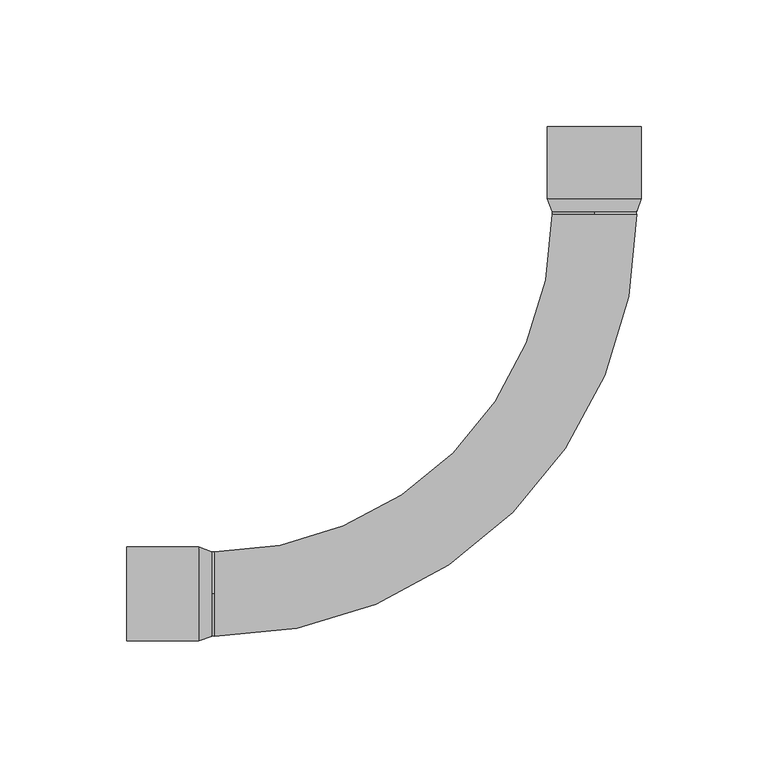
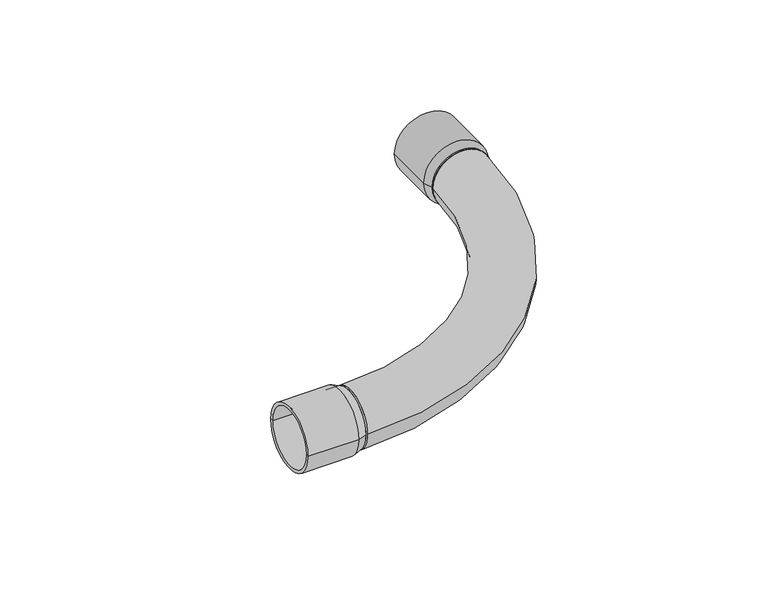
"""IFC4 building model written with IfcOpenShell, lengths in millimetres: cable carrier fitting geometry, AmancoWavin_Unionesdetubería_ConduitCurva : Pesado."""

import ifcopenshell
import ifcopenshell.guid

model = None  # the IFC model being written
_history = None  # IfcOwnerHistory: only IFC2X3 demands one
_inside = {}  # id of a spatial element -> (the spatial element, [elements in it])
_under = {}  # id of a project, library or spatial element -> (it, [spatial elements below it])
_declared = {}  # id of a project -> (the project, [libraries it declares])
_typed = {}  # id of a type object -> (the type object, [elements of that type])
_made_of = {}  # id of a material, layer set ... -> (it, [elements and type objects made of it])


def new_model(schema):
    """Start an empty IFC model of exactly this schema.

    Asked for "IFC4X3", IfcOpenShell would pick the latest addendum, in which some entities
    have other attributes; the version numbers below select the first issue.
    IFC2X3 requires an IfcOwnerHistory on every rooted entity: one is made here for all.
    """
    global model, _history
    if schema == "IFC4X3":
        model = ifcopenshell.file(schema_version=(4, 3, 0, 0))
    else:
        model = ifcopenshell.file(schema=schema)
    _inside.clear()
    _under.clear()
    _declared.clear()
    _typed.clear()
    _made_of.clear()
    _history = None
    if model.schema == "IFC2X3":
        org = make("IfcOrganization", Name="unknown")
        user = make(
            "IfcPersonAndOrganization",
            ThePerson=make("IfcPerson", FamilyName="unknown"),
            TheOrganization=org,
        )
        app = make(
            "IfcApplication",
            ApplicationDeveloper=org,
            Version="unknown",
            ApplicationFullName="unknown",
            ApplicationIdentifier="unknown",
        )
        _history = make(
            "IfcOwnerHistory",
            OwningUser=user,
            OwningApplication=app,
            ChangeAction="ADDED",
            CreationDate=0,
        )
    return model


def make(cls, **values):
    """One entity of the class cls with the attributes given. An attribute that is None is left unset."""
    return model.create_entity(
        cls, **{name: value for name, value in values.items() if value is not None}
    )


def rooted(cls, **values):
    """An entity with a GlobalId (a new one), such as an element, a storey or a relation."""
    return make(cls, GlobalId=ifcopenshell.guid.new(), OwnerHistory=_history, **values)


def si_unit(unit_type, name, prefix=None):
    """IfcSIUnit, for example si_unit("LENGTHUNIT", "METRE", prefix="MILLI")."""
    return make("IfcSIUnit", UnitType=unit_type, Prefix=prefix, Name=name)


def assignment(units):
    """IfcUnitAssignment: the units of a project."""
    return None if units is None else make("IfcUnitAssignment", Units=units)


def point(xyz):
    """IfcCartesianPoint."""
    return None if xyz is None else make("IfcCartesianPoint", Coordinates=xyz)


def direction(xyz):
    """IfcDirection."""
    return None if xyz is None else make("IfcDirection", DirectionRatios=xyz)


def frame(location, z_axis=None, x_axis=None):
    """IfcAxis2Placement3D, a coordinate frame: its origin and axes. An axis left out is left unset."""
    return make(
        "IfcAxis2Placement3D",
        Location=point(location),
        Axis=direction(z_axis),
        RefDirection=direction(x_axis),
    )


def frame_2d(location, x_axis=None):
    """IfcAxis2Placement2D, a coordinate frame in the plane: its origin and x axis."""
    return make(
        "IfcAxis2Placement2D", Location=point(location), RefDirection=direction(x_axis)
    )


def origin():
    """The frame at (0, 0, 0) with its axes left unset."""
    return frame((0.0, 0.0, 0.0))


def origin_2d():
    """The frame at (0, 0) in the plane with its x axis left unset."""
    return frame_2d((0.0, 0.0))


def place(relative_to, where):
    """IfcLocalPlacement: puts the frame where relative to a parent placement (None: the world)."""
    return make(
        "IfcLocalPlacement", PlacementRelTo=relative_to, RelativePlacement=where
    )


def context(
    kind, dimensions, precision=None, world=None, true_north=None, identifier=None
):
    """IfcGeometricRepresentationContext, for example the 3D "Model" context."""
    return make(
        "IfcGeometricRepresentationContext",
        ContextIdentifier=identifier,
        ContextType=kind,
        CoordinateSpaceDimension=dimensions,
        Precision=precision,
        WorldCoordinateSystem=world,
        TrueNorth=true_north,
    )


def project(units=None, contexts=None):
    """IfcProject with its units and contexts."""
    return rooted(
        "IfcProject",
        Name="project",
        RepresentationContexts=contexts,
        UnitsInContext=assignment(units),
    )


def spatial(cls, under=None, at=None, **own):
    """A site, building, storey or space (cls), placed at a placement, below another one or the project."""
    s = rooted(cls, ObjectPlacement=at, **own)
    if under is not None:
        _under.setdefault(under.id(), (under, []))[1].append(s)
    return s


def polyline(points):
    """IfcPolyline through the points."""
    return make("IfcPolyline", Points=[point(p) for p in points])


def circle_curve(where, radius):
    """IfcCircle in the frame where."""
    return make("IfcCircle", Position=where, Radius=radius)


def ellipse_curve(where, semi_axis1, semi_axis2):
    """IfcEllipse in the frame where."""
    return make(
        "IfcEllipse", Position=where, SemiAxis1=semi_axis1, SemiAxis2=semi_axis2
    )


def trimmed(basis, trim1, trim2, sense, master):
    """IfcTrimmedCurve: the piece of a basis curve between two trims."""
    return make(
        "IfcTrimmedCurve",
        BasisCurve=basis,
        Trim1=trim1,
        Trim2=trim2,
        SenseAgreement=sense,
        MasterRepresentation=master,
    )


def segment(curve, same_sense, transition):
    """IfcCompositeCurveSegment."""
    return make(
        "IfcCompositeCurveSegment",
        Transition=transition,
        SameSense=same_sense,
        ParentCurve=curve,
    )


def composite_curve(segments, self_intersect=None):
    """IfcCompositeCurve: segments joined end to end."""
    return make("IfcCompositeCurve", Segments=segments, SelfIntersect=self_intersect)


def outline(outer, holes=None, kind="AREA"):
    """IfcArbitraryClosedProfileDef: a profile drawn as a closed curve; with holes, ...WithVoids."""
    if holes is None:
        return make("IfcArbitraryClosedProfileDef", ProfileType=kind, OuterCurve=outer)
    return make(
        "IfcArbitraryProfileDefWithVoids",
        ProfileType=kind,
        OuterCurve=outer,
        InnerCurves=holes,
    )


def extrude(swept, where, along, depth):
    """IfcExtrudedAreaSolid: the profile swept, set in the frame where, extruded along a direction by depth."""
    return make(
        "IfcExtrudedAreaSolid",
        SweptArea=swept,
        Position=where,
        ExtrudedDirection=direction(along),
        Depth=depth,
    )


def shape(context_of_items, identifier, shape_type, items):
    """IfcShapeRepresentation: the items that make up one representation, for example the "Body"."""
    return make(
        "IfcShapeRepresentation",
        ContextOfItems=context_of_items,
        RepresentationIdentifier=identifier,
        RepresentationType=shape_type,
        Items=items,
    )


def source(mapping_origin, context_of_items, identifier, shape_type, items):
    """IfcRepresentationMap: a shape defined once, which mapped items show again and again."""
    return make(
        "IfcRepresentationMap",
        MappingOrigin=mapping_origin,
        MappedRepresentation=shape(context_of_items, identifier, shape_type, items),
    )


def transform(
    local_origin,
    x_axis=None,
    y_axis=None,
    z_axis=None,
    scale=None,
    scale2=None,
    scale3=None,
    uniform=True,
):
    """IfcCartesianTransformationOperator3D, or its non-uniform kind. x_axis, y_axis, z_axis: its Axis1, 2, 3."""
    if uniform:
        return make(
            "IfcCartesianTransformationOperator3D",
            Axis1=direction(x_axis),
            Axis2=direction(y_axis),
            LocalOrigin=point(local_origin),
            Scale=scale,
            Axis3=direction(z_axis),
        )
    return make(
        "IfcCartesianTransformationOperator3DnonUniform",
        Axis1=direction(x_axis),
        Axis2=direction(y_axis),
        LocalOrigin=point(local_origin),
        Scale=scale,
        Axis3=direction(z_axis),
        Scale2=scale2,
        Scale3=scale3,
    )


def mapped(mapping_source, mapping_target):
    """IfcMappedItem: shows the shape of a source again, moved by a transform."""
    return make(
        "IfcMappedItem", MappingSource=mapping_source, MappingTarget=mapping_target
    )


def made_of(thing, what):
    """Note that an element or type object is made of a material, layer set ...; save() writes the relation."""
    if what is not None:
        _made_of.setdefault(what.id(), (what, []))[1].append(thing)
    return thing


def element(
    cls,
    number,
    at=None,
    inside=None,
    cuts=None,
    type_object=None,
    material=None,
    context=None,
    identifier="Body",
    shape_type=None,
    held_by="IfcProductDefinitionShape",
    body=None,
    shapes=None,
    **own,
):
    """One element of the class cls, such as IfcWall. Its Tag is "e" and its number.

    at: its placement. inside: the storey or other place that contains it. cuts: it is an
    opening in that element (IfcRelVoidsElement). A single representation is given by context,
    identifier, shape_type and body (its items); several are given by shapes. held_by: the class
    of the entity that holds the representations. save() writes the other relations.
    """
    e = rooted(cls, Tag="e%d" % number, ObjectPlacement=at, **own)
    if body is not None:
        shapes = [shape(context, identifier, shape_type, body)]
    if shapes is not None:
        e.Representation = make(held_by, Representations=shapes)
    if inside is not None:
        _inside.setdefault(inside.id(), (inside, []))[1].append(e)
    if cuts is not None:
        rooted(
            "IfcRelVoidsElement", RelatingBuildingElement=cuts, RelatedOpeningElement=e
        )
    if type_object is not None:
        _typed.setdefault(type_object.id(), (type_object, []))[1].append(e)
    return made_of(e, material)


def aggregate(whole, parts):
    """IfcRelAggregates: a whole, such as a stair, and the parts it consists of."""
    return rooted("IfcRelAggregates", RelatingObject=whole, RelatedObjects=parts)


def save(model, path):
    """Write the relations noted so far, then the file.

    IfcRelAggregates (storeys below a building ...), IfcRelContainedInSpatialStructure (elements
    in a storey), IfcRelDefinesByType, IfcRelAssociatesMaterial and IfcRelDeclares: one each for
    every whole, place, type object, material and project.
    """
    for whole, parts in _under.values():
        aggregate(whole, parts)
    for where, things in _inside.values():
        rooted(
            "IfcRelContainedInSpatialStructure",
            RelatedElements=things,
            RelatingStructure=where,
        )
    for kind, things in _typed.values():
        rooted("IfcRelDefinesByType", RelatedObjects=things, RelatingType=kind)
    for what, things in _made_of.values():
        rooted("IfcRelAssociatesMaterial", RelatedObjects=things, RelatingMaterial=what)
    for by, libraries in _declared.values():
        rooted("IfcRelDeclares", RelatingContext=by, RelatedDefinitions=libraries)
    model.write(path)


def plane_surface(at):
    """IfcPlane: the flat surface through the origin of the frame at, square to its z axis."""
    return make("IfcPlane", Position=at)


def cylinder_surface(at, radius):
    """IfcCylindricalSurface: all points at the distance radius from the z axis of the frame at."""
    return make("IfcCylindricalSurface", Position=at, Radius=radius)


def revolved_surface(curve, axis_point, axis_direction):
    """IfcSurfaceOfRevolution: the curve turned about the line through axis_point along axis_direction."""
    return make(
        "IfcSurfaceOfRevolution",
        SweptCurve=make("IfcArbitraryOpenProfileDef", ProfileType="CURVE", Curve=curve),
        AxisPosition=make("IfcAxis1Placement", Location=point(axis_point), Axis=direction(axis_direction)),
    )


def advanced_brep(points, edges, surfaces, faces):
    """IfcAdvancedBrep: a solid bounded by faces that lie on surfaces and meet in shared edges.

    An edge is (start, end): straight between two places in points (the first is 0);
    or (start, end, curve); or (start, end, curve, False) where it runs against its curve.
    A face is (place in surfaces, loops), or (place, loops, False) where it looks against
    its surface's normal. A loop lists edges by number (the first is 1), with a minus sign
    where the edge is run from its end to its start. The first loop is the outer one.
    """
    corners = [point(p) for p in points]
    vertices = [make("IfcVertexPoint", VertexGeometry=c) for c in corners]
    made = []
    for start, end, *more in edges:
        made.append(
            make(
                "IfcEdgeCurve",
                EdgeStart=vertices[start],
                EdgeEnd=vertices[end],
                EdgeGeometry=more[0] if more else make("IfcPolyline", Points=[corners[start], corners[end]]),
                SameSense=more[1] if len(more) > 1 else True,
            )
        )
    hull = []
    for where, loops, *sense in faces:
        bounds = []
        for j, loop in enumerate(loops):
            ring = [make("IfcOrientedEdge", EdgeElement=made[abs(k) - 1], Orientation=k > 0) for k in loop]
            bounds.append(
                make(
                    "IfcFaceOuterBound" if j == 0 else "IfcFaceBound",
                    Bound=make("IfcEdgeLoop", EdgeList=ring),
                    Orientation=True,
                )
            )
        hull.append(make("IfcAdvancedFace", Bounds=bounds, FaceSurface=surfaces[where], SameSense=sense[0] if sense else True))
    return make("IfcAdvancedBrep", Outer=make("IfcClosedShell", CfsFaces=hull))


def cable_carrier_fitting_02a53545(model_context):
    return source(origin(), model_context, "Body", "SolidModel", [
        advanced_brep(
        [(-18.5, 184.5, 0.0), (18.5, 184.5, 0.0), (18.5, 156.0, 0.0), (-18.5, 156.0, 0.0), (-16.7, 184.5, 0.0), (16.7, 184.5, 0.0), (-16.7, 151.0, 0.0), (16.7, 151.0, 0.0)],
        [
            (0, 1, circle_curve(frame((0.0, 184.5, 0.0), z_axis=(0.0, -1.0, 0.0), x_axis=(1.0, 0.0, 0.0)), 18.5)),
            (1, 2),
            (2, 3, circle_curve(frame((0.0, 156.0, 0.0), z_axis=(0.0, 1.0, 0.0), x_axis=(1.0, 0.0, 0.0)), 18.5)),
            (3, 0),
            (1, 0, circle_curve(frame((0.0, 184.5, 0.0), z_axis=(0.0, -1.0, 0.0), x_axis=(1.0, 0.0, 0.0)), 18.5)),
            (3, 2, circle_curve(frame((0.0, 156.0, 0.0), z_axis=(0.0, 1.0, 0.0), x_axis=(1.0, 0.0, 0.0)), 18.5)),
            (4, 5, circle_curve(frame((0.0, 184.5, 0.0), z_axis=(0.0, -1.0, 0.0), x_axis=(1.0, 0.0, 0.0)), 16.7)),
            (5, 1),
            (0, 4),
            (5, 4, circle_curve(frame((0.0, 184.5, 0.0), z_axis=(0.0, -1.0, 0.0), x_axis=(1.0, 0.0, 0.0)), 16.7)),
            (6, 7, circle_curve(frame((0.0, 151.0, 0.0), z_axis=(0.0, -1.0, 0.0), x_axis=(1.0, 0.0, 0.0)), 16.7)),
            (7, 5),
            (4, 6),
            (7, 6, circle_curve(frame((0.0, 151.0, 0.0), z_axis=(0.0, -1.0, 0.0), x_axis=(1.0, 0.0, 0.0)), 16.7)),
            (2, 7),
            (6, 3),
        ],
        [
            cylinder_surface(frame((0.0, 2053.03, 0.0), z_axis=(0.0, 1.0, 0.0), x_axis=(1.0, 0.0, 0.0)), 18.5),
            plane_surface(frame((0.0, 184.5, 0.0), z_axis=(0.0, 1.0, 0.0), x_axis=(1.0, 0.0, 0.0))),
            revolved_surface(polyline([(16.7, 184.5, 0.0), (16.7, 151.0, 0.0)]), (0.0, 2053.03, 0.0), (0.0, 1.0, 0.0)),
            revolved_surface(polyline([(16.7, 151.0, 0.0), (18.5, 156.0, 0.0)]), (0.0, 2053.03, 0.0), (0.0, 1.0, 0.0)),
        ],
        [
            (0, [[1, 2, 3, 4]]),
            (0, [[5, -4, 6, -2]]),
            (1, [[7, 8, -1, 9]]),
            (1, [[10, -9, -5, -8]]),
            (2, [[11, 12, -7, 13]]),
            (2, [[14, -13, -10, -12]]),
            (3, [[-3, 15, -11, 16]]),
            (3, [[-6, -16, -14, -15]]),
        ],
    ),
        advanced_brep(
        [(-184.5, -18.5, 0.0), (-184.5, 18.5, 0.0), (-156.0, 18.5, 0.0), (-156.0, -18.5, 0.0), (-184.5, -16.7, 0.0), (-184.5, 16.7, 0.0), (-151.0, -16.7, 0.0), (-151.0, 16.7, 0.0)],
        [
            (0, 1, circle_curve(frame((-184.5, 0.0, 0.0), z_axis=(1.0, 0.0, 0.0), x_axis=(0.0, 1.0, 0.0)), 18.5)),
            (1, 2),
            (2, 3, circle_curve(frame((-156.0, 0.0, 0.0), z_axis=(-1.0, 0.0, 0.0), x_axis=(0.0, 1.0, 0.0)), 18.5)),
            (3, 0),
            (1, 0, circle_curve(frame((-184.5, 0.0, 0.0), z_axis=(1.0, 0.0, 0.0), x_axis=(0.0, 1.0, 0.0)), 18.5)),
            (3, 2, circle_curve(frame((-156.0, 0.0, 0.0), z_axis=(-1.0, 0.0, 0.0), x_axis=(0.0, 1.0, 0.0)), 18.5)),
            (4, 5, circle_curve(frame((-184.5, 0.0, 0.0), z_axis=(1.0, 0.0, 0.0), x_axis=(0.0, 1.0, 0.0)), 16.7)),
            (5, 1),
            (0, 4),
            (5, 4, circle_curve(frame((-184.5, 0.0, 0.0), z_axis=(1.0, 0.0, 0.0), x_axis=(0.0, 1.0, 0.0)), 16.7)),
            (6, 7, circle_curve(frame((-151.0, 0.0, 0.0), z_axis=(1.0, 0.0, 0.0), x_axis=(0.0, 1.0, 0.0)), 16.7)),
            (7, 5),
            (4, 6),
            (7, 6, circle_curve(frame((-151.0, 0.0, 0.0), z_axis=(1.0, 0.0, 0.0), x_axis=(0.0, 1.0, 0.0)), 16.7)),
            (2, 7),
            (6, 3),
        ],
        [
            cylinder_surface(frame((2000.0, 0.0, 0.0), z_axis=(-1.0, 0.0, 0.0), x_axis=(0.0, 1.0, 0.0)), 18.5),
            plane_surface(frame((-184.5, 0.0, 0.0), z_axis=(-1.0, 0.0, 0.0), x_axis=(0.0, 1.0, 0.0))),
            revolved_surface(polyline([(-184.5, 16.7, 0.0), (-151.0, 16.7, 0.0)]), (2000.0, 0.0, 0.0), (-1.0, 0.0, 0.0)),
            revolved_surface(polyline([(-151.0, 16.7, 0.0), (-156.0, 18.5, 0.0)]), (2000.0, 0.0, 0.0), (-1.0, 0.0, 0.0)),
        ],
        [
            (0, [[1, 2, 3, 4]]),
            (0, [[5, -4, 6, -2]]),
            (1, [[7, 8, -1, 9]]),
            (1, [[10, -9, -5, -8]]),
            (2, [[11, 12, -7, 13]]),
            (2, [[14, -13, -10, -12]]),
            (3, [[-3, 15, -11, 16]]),
            (3, [[-6, -16, -14, -15]]),
        ],
    ),
        extrude(outline(composite_curve([segment(trimmed(circle_curve(origin_2d(), 16.7), [point((0.0, -16.7))], [point((0.0, 16.7))], False, "CARTESIAN"), True, "CONTINUOUS"), segment(trimmed(circle_curve(origin_2d(), 16.7), [point((0.0, 16.7))], [point((0.0, -16.7))], False, "CARTESIAN"), True, "CONTINUOUS")], self_intersect=False)), frame((-151.0, 0.0, 0.0), z_axis=(1.0, 0.0, 0.0), x_axis=(0.0, 1.0, 0.0)), (0.0, 0.0, 1.0), 1.0),
        extrude(outline(composite_curve([segment(trimmed(circle_curve(origin_2d(), 16.7), [point((-16.7, 0.0))], [point((16.7, 0.0))], False, "CARTESIAN"), True, "CONTINUOUS"), segment(trimmed(circle_curve(origin_2d(), 16.7), [point((16.7, 0.0))], [point((-16.7, 0.0))], False, "CARTESIAN"), True, "CONTINUOUS")], self_intersect=False)), frame((0.0, 150.0, 0.0), z_axis=(0.0, 1.0, 0.0), x_axis=(0.0, 0.0, 1.0)), (0.0, 0.0, 1.0), 1.0),
        advanced_brep(
        [(-150.0, -16.7, 0.0), (-150.0, 16.7, 0.0), (16.7, 150.0, 0.0), (-16.7, 150.0, 0.0)],
        [
            (0, 1, circle_curve(frame((-150.0, 0.0, 0.0), z_axis=(-1.0, 0.0, 0.0), x_axis=(0.0, 1.0, 0.0)), 16.7)),
            (1, 0, circle_curve(frame((-150.0, 0.0, 0.0), z_axis=(-1.0, 0.0, 0.0), x_axis=(0.0, 1.0, 0.0)), 16.7)),
            (2, 3, circle_curve(frame((0.0, 150.0, 0.0), z_axis=(0.0, 1.0, 0.0), x_axis=(-1.0, 0.0, 0.0)), 16.7)),
            (3, 2, circle_curve(frame((0.0, 150.0, 0.0), z_axis=(0.0, 1.0, 0.0), x_axis=(-1.0, 0.0, 0.0)), 16.7)),
            (3, 1, circle_curve(frame((-150.0, 150.0, 0.0), z_axis=(0.0, 0.0, -1.0), x_axis=(0.0, -1.0, 0.0)), 133.3)),
            (0, 2, circle_curve(frame((-150.0, 150.0, 0.0), z_axis=(0.0, 0.0, 1.0), x_axis=(0.0, -1.0, 0.0)), 166.7)),
        ],
        [
            plane_surface(frame((-150.0, 0.0, 0.0), z_axis=(-1.0, 0.0, 0.0), x_axis=(0.0, 0.0, 1.0))),
            plane_surface(frame((0.0, 150.0, 0.0), z_axis=(0.0, 1.0, 0.0), x_axis=(0.0, 0.0, 1.0))),
            revolved_surface(trimmed(ellipse_curve(frame((-150.0, 0.0, 0.0), z_axis=(-1.0, 0.0, 0.0), x_axis=(0.0, 1.0, 0.0)), 16.7, 16.7), [point((-150.0, -16.7, 0.0))], [point((-150.0, 16.7, 0.0))], True, "CARTESIAN"), (-150.0, 150.0, 0.0), (0.0, 0.0, 1.0)),
            revolved_surface(trimmed(ellipse_curve(frame((-150.0, 0.0, 0.0), z_axis=(-1.0, 0.0, 0.0), x_axis=(0.0, 1.0, 0.0)), 16.7, 16.7), [point((-150.0, 16.7, 0.0))], [point((-150.0, -16.7, 0.0))], True, "CARTESIAN"), (-150.0, 150.0, 0.0), (0.0, 0.0, 1.0)),
        ],
        [
            (0, [[1, 2]]),
            (1, [[3, 4]]),
            (2, [[5, -1, 6, -4]]),
            (3, [[-6, -2, -5, -3]]),
        ],
    ),
    ])


if __name__ == "__main__":
    model = new_model("IFC4")
    model_context = context("Model", 3, world=origin())
    ifc_project = project(units=[si_unit("LENGTHUNIT", "METRE", prefix="MILLI")], contexts=[model_context])
    site = spatial("IfcSite", under=ifc_project)
    building = spatial("IfcBuilding", under=site)
    placement = place(None, origin())
    cable_carrier_fitting_shape = cable_carrier_fitting_02a53545(model_context)
    element("IfcCableCarrierFitting", 1, ObjectType="AmancoWavin_Unionesdetubería_ConduitCurva : Pesado", at=placement, inside=building, context=model_context, shape_type="MappedRepresentation", body=[
        mapped(cable_carrier_fitting_shape, transform((0.0, 0.0, 0.0), x_axis=(1.0, 0.0, 0.0), y_axis=(0.0, 1.0, 0.0), z_axis=(0.0, 0.0, 1.0))),
    ])
    save(model, "model.ifc")
